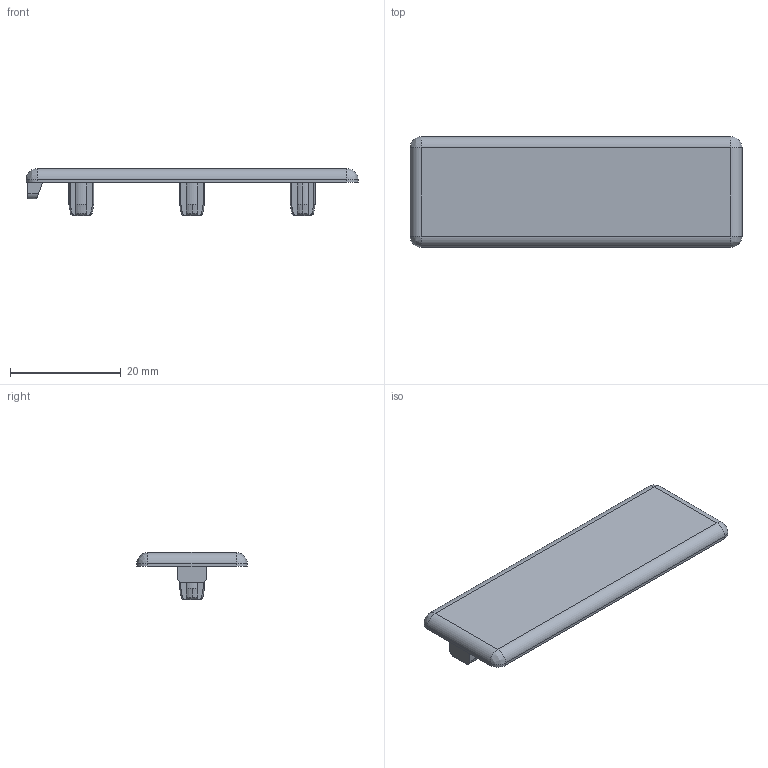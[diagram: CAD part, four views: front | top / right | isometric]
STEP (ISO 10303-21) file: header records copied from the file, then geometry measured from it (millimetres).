
FILE_DESCRIPTION (( 'STEP AP203' ), '1' );
FILE_NAME ('Geotech 0105AK6020.STEP', '2024-03-06T13:36:13', ( 'Windows-Benutzer' ), ( '' ), 'SwSTEP 2.0', 'SolidWorks 2023', '' );
FILE_SCHEMA (( 'CONFIG_CONTROL_DESIGN' ));
Length unit declared in the file: millimetre
Products named in the file (1): Geotech 0105AK6020
Bounding box: 60 x 20 x 8.5 mm (x, y, z)
Volume: 2417 mm3; surface area: 3154.1 mm2
Topology: 1 solids, 1 shells, 114 faces, 312 edges, 200 vertices
Faces by surface type: plane 49, cylinder 31, bspline 19, cone 15
Entity records: 3972 total; most frequent: CARTESIAN_POINT 1175, ORIENTED_EDGE 616, DIRECTION 517, EDGE_CURVE 308, VERTEX_POINT 200, AXIS2_PLACEMENT_3D 178, VECTOR 161, LINE 161
